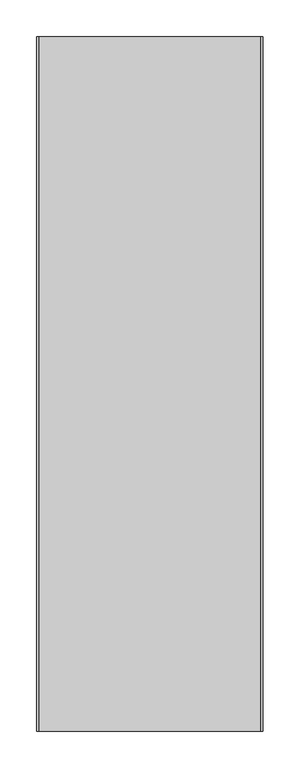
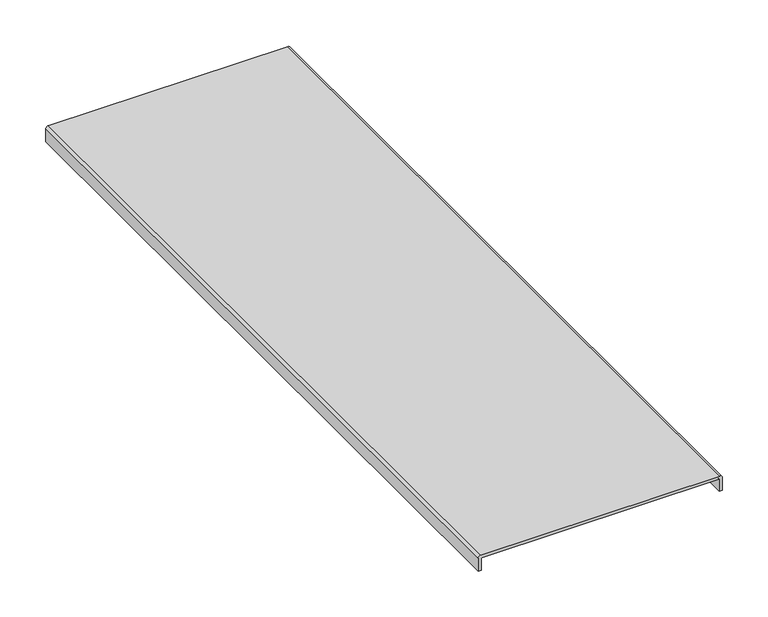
"""IFC4 building model written with IfcOpenShell, lengths in millimetres: proxy geometry, Cable_Tray_Cover_TWT_Basorcanal : Basorcanal TWT 300."""

from ifc_helpers import new_model, si_unit, point, frame, frame_2d, origin, place, context, project, spatial, polyline, circle_curve, trimmed, segment, composite_curve, outline, extrude, source, transform, mapped, element, save


def generic_models_28185427(model_context):
    return source(origin(), model_context, "Body", "SweptSolid", [
        extrude(outline(composite_curve([segment(trimmed(circle_curve(frame_2d((-0.5, -149.5)), 0.5), [point((-0.5, -150.0))], [point((0.0, -149.5))], True, "CARTESIAN"), True, "CONTINUOUS"), segment(polyline([(0.0, -149.5), (0.0, 149.5)]), True, "CONTINUOUS"), segment(trimmed(circle_curve(frame_2d((-0.5, 149.5)), 0.5), [point((0.0, 149.5))], [point((-0.5, 150.0))], True, "CARTESIAN"), True, "CONTINUOUS"), segment(polyline([(-0.5, 150.0), (-16.0, 150.0), (-16.0, 154.0), (0.9268922, 154.0)]), True, "CONTINUOUS"), segment(trimmed(circle_curve(frame_2d((0.9268922, 150.9268922)), 3.0731078), [point((0.9268922, 154.0))], [point((4.0, 150.9268922))], False, "CARTESIAN"), True, "CONTINUOUS"), segment(polyline([(4.0, 150.9268922), (4.0, -150.6770801)]), True, "CONTINUOUS"), segment(trimmed(circle_curve(frame_2d((0.6770801, -150.6770801)), 3.3229199), [point((4.0, -150.6770801))], [point((0.6770801, -154.0))], False, "CARTESIAN"), True, "CONTINUOUS"), segment(polyline([(0.6770801, -154.0), (-16.0, -154.0), (-16.0, -150.0), (-0.5, -150.0)]), True, "CONTINUOUS")], self_intersect=False)), frame((0.0, 0.0, 0.0), z_axis=(0.0, 1.0, 0.0), x_axis=(0.0, 0.0, 1.0)), (0.0, 0.0, 1.0), 944.3),
    ])


if __name__ == "__main__":
    model = new_model("IFC4")
    model_context = context("Model", 3, world=origin())
    ifc_project = project(units=[si_unit("LENGTHUNIT", "METRE", prefix="MILLI")], contexts=[model_context])
    site = spatial("IfcSite", under=ifc_project)
    building = spatial("IfcBuilding", under=site)
    placement = place(None, origin())
    generic_models_shape = generic_models_28185427(model_context)
    element("IfcBuildingElementProxy", 1, Name="Cable_Tray_Cover_TWT_Basorcanal : Basorcanal TWT 300", ObjectType="Cable_Tray_Cover_TWT_Basorcanal : Basorcanal TWT 300", at=placement, inside=building, context=model_context, shape_type="MappedRepresentation", body=[
        mapped(generic_models_shape, transform((0.0, 0.0, 0.0), x_axis=(1.0, 0.0, 0.0), y_axis=(0.0, 1.0, 0.0), z_axis=(0.0, 0.0, 1.0))),
    ])
    save(model, "model.ifc")
